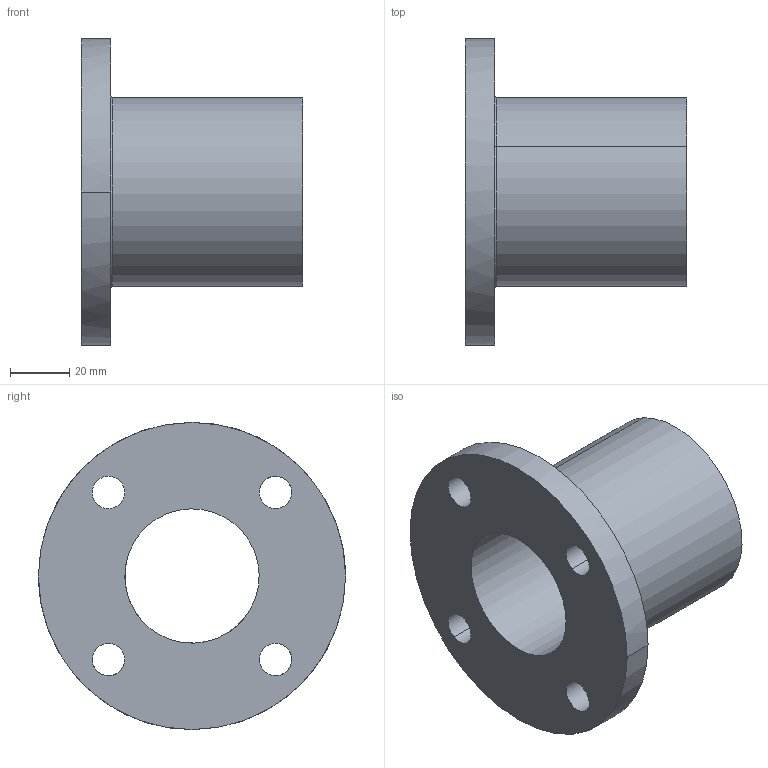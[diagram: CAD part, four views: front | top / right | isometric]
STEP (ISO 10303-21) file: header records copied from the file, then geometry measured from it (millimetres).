
FILE_DESCRIPTION(('CATIA V5 STEP Exchange'),'2;1');
FILE_NAME('C:\Users\aa\Documents\이댈\TM\TTM\TTM45.stp','2020-03-24T04:51:08+00:00',('none'),('none'),'CATIA Version 5 Release 20 SP 7 (IN-10)','CATIA V5 STEP AP203','none');
FILE_SCHEMA(('CONFIG_CONTROL_DESIGN'));
Length unit declared in the file: millimetre
Products named in the file (1): TTM45
Bounding box: 75 x 104 x 104 mm (x, y, z)
Volume: 168314.9 mm3; surface area: 41373.8 mm2
Topology: 1 solids, 1 shells, 19 faces, 46 edges, 30 vertices
Faces by surface type: cylinder 14, plane 3, torus 2
Entity records: 810 total; most frequent: CARTESIAN_POINT 322, ORIENTED_EDGE 92, DIRECTION 73, EDGE_CURVE 46, AXIS2_PLACEMENT_3D 41, EDGE_LOOP 30, VERTEX_POINT 30, CIRCLE 21
